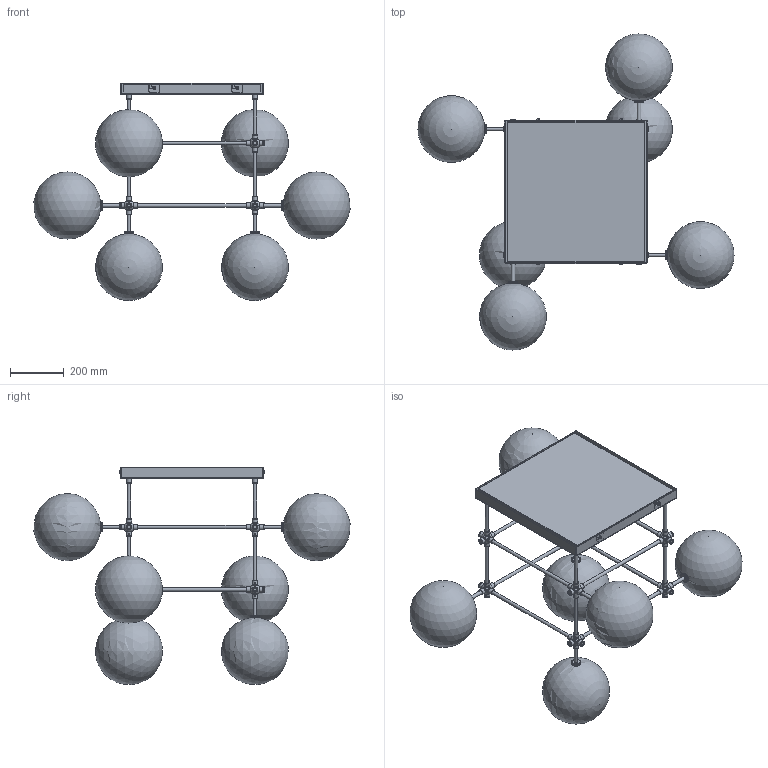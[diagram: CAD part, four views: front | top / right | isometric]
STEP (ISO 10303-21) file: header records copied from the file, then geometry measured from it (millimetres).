
FILE_DESCRIPTION(/* description */ (''),/* implementation_level */ '2;1');
FILE_NAME(/* name */ 'T:\B036 Soap DT6\Pliki bryłowe handlowe\B036 Soap DT6 3D files_na stronę\B036 Soap 6 DT.stp',/* time_stamp */ '2022-02-02T11:21:17+01:00',/* author */ ('Mariusz Awariusz'),/* organization */ (''),/* preprocessor_version */ 'ST-DEVELOPER v18.1',/* originating_system */ 'Autodesk Inventor 2022',/* authorisation */ '');
FILE_SCHEMA (('AUTOMOTIVE_DESIGN { 1 0 10303 214 3 1 1 }'));
Length unit declared in the file: millimetre
Products named in the file (1): B036 Soap 6 DT_jako część_korpusy bry
łowe
Bounding box: 1176.64 x 1176.64 x 808.2 mm (x, y, z)
Volume: 4584668.6 mm3; surface area: 4166869.8 mm2
Topology: 160 solids, 160 shells, 1301 faces, 2383 edges, 1474 vertices
Faces by surface type: plane 572, cylinder 374, cone 309, sphere 24, torus 16, bspline 6
Full cylindrical faces by diameter (mm): 2.693 x3, 3 x3, 5 x25, 5.5 x3, 6 x4, 8.8 x4, 11 x4, 11.6 x14, 13 x56, 18 x52, 18.917 x48, 20 x110, 33 x6, 35 x6
Entity records: 32255 total; most frequent: DIRECTION 6303, CARTESIAN_POINT 5291, ORIENTED_EDGE 4718, AXIS2_PLACEMENT_3D 2648, EDGE_CURVE 2359, EDGE_LOOP 1489, VERTEX_POINT 1474, FACE_OUTER_BOUND 1301
